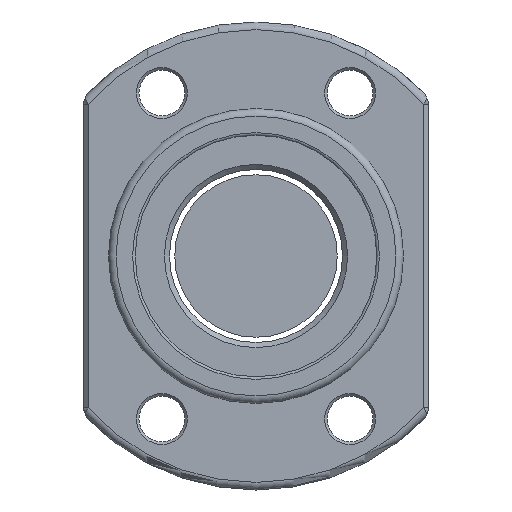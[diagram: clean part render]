
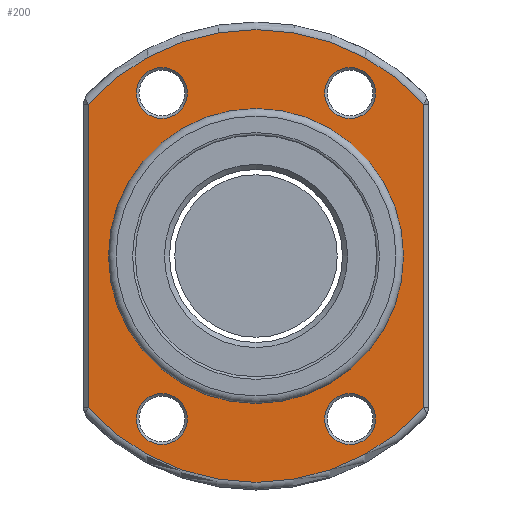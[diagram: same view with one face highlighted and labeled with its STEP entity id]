
A CAD part, front view. The second image highlights one B-rep face of the part: STEP entity #200.
In plain terms, the highlighted planar face has unit normal (0, -1, 0).
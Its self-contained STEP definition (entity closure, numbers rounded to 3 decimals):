
#89=LINE('',#1179,#109);
#90=LINE('',#1183,#110);
#109=VECTOR('',#983,1.);
#110=VECTOR('',#986,1.);
#154=PLANE('',#872);
#200=ADVANCED_FACE('',(#270,#271,#272,#273,#274,#275),#154,.T.);
#270=FACE_BOUND('',#340,.T.);
#271=FACE_BOUND('',#341,.T.);
#272=FACE_BOUND('',#342,.T.);
#273=FACE_BOUND('',#343,.T.);
#274=FACE_BOUND('',#344,.T.);
#275=FACE_BOUND('',#345,.T.);
#340=EDGE_LOOP('',(#434));
#341=EDGE_LOOP('',(#435));
#342=EDGE_LOOP('',(#436));
#343=EDGE_LOOP('',(#437));
#344=EDGE_LOOP('',(#438));
#345=EDGE_LOOP('',(#439,#440,#441,#442));
#434=ORIENTED_EDGE('',*,*,#714,.T.);
#435=ORIENTED_EDGE('',*,*,#715,.T.);
#436=ORIENTED_EDGE('',*,*,#716,.T.);
#437=ORIENTED_EDGE('',*,*,#717,.T.);
#438=ORIENTED_EDGE('',*,*,#718,.T.);
#439=ORIENTED_EDGE('',*,*,#719,.T.);
#440=ORIENTED_EDGE('',*,*,#720,.T.);
#441=ORIENTED_EDGE('',*,*,#721,.T.);
#442=ORIENTED_EDGE('',*,*,#722,.T.);
#636=VERTEX_POINT('',#1167);
#637=VERTEX_POINT('',#1169);
#638=VERTEX_POINT('',#1171);
#639=VERTEX_POINT('',#1173);
#640=VERTEX_POINT('',#1175);
#641=VERTEX_POINT('',#1177);
#642=VERTEX_POINT('',#1178);
#643=VERTEX_POINT('',#1180);
#644=VERTEX_POINT('',#1182);
#714=EDGE_CURVE('',#636,#636,#816,.T.);
#715=EDGE_CURVE('',#637,#637,#817,.T.);
#716=EDGE_CURVE('',#638,#638,#818,.T.);
#717=EDGE_CURVE('',#639,#639,#819,.T.);
#718=EDGE_CURVE('',#640,#640,#820,.T.);
#719=EDGE_CURVE('',#641,#642,#821,.T.);
#720=EDGE_CURVE('',#642,#643,#89,.T.);
#721=EDGE_CURVE('',#643,#644,#822,.T.);
#722=EDGE_CURVE('',#644,#641,#90,.T.);
#816=CIRCLE('',#865,5.);
#817=CIRCLE('',#866,5.);
#818=CIRCLE('',#867,5.);
#819=CIRCLE('',#868,5.);
#820=CIRCLE('',#869,29.);
#821=CIRCLE('',#870,44.5);
#822=CIRCLE('',#871,44.5);
#865=AXIS2_PLACEMENT_3D('',#1166,#971,#972);
#866=AXIS2_PLACEMENT_3D('',#1168,#973,#974);
#867=AXIS2_PLACEMENT_3D('',#1170,#975,#976);
#868=AXIS2_PLACEMENT_3D('',#1172,#977,#978);
#869=AXIS2_PLACEMENT_3D('',#1174,#979,#980);
#870=AXIS2_PLACEMENT_3D('',#1176,#981,#982);
#871=AXIS2_PLACEMENT_3D('',#1181,#984,#985);
#872=AXIS2_PLACEMENT_3D('',#1184,#987,#988);
#971=DIRECTION('',(0.,1.,0.));
#972=DIRECTION('',(0.,0.,-1.));
#973=DIRECTION('',(0.,1.,0.));
#974=DIRECTION('',(0.,0.,-1.));
#975=DIRECTION('',(0.,1.,0.));
#976=DIRECTION('',(0.,0.,-1.));
#977=DIRECTION('',(0.,1.,0.));
#978=DIRECTION('',(0.,0.,-1.));
#979=DIRECTION('',(0.,1.,0.));
#980=DIRECTION('',(0.,0.,-1.));
#981=DIRECTION('',(0.,-1.,0.));
#982=DIRECTION('',(0.,0.,-1.));
#983=DIRECTION('',(0.,0.,-1.));
#984=DIRECTION('',(0.,-1.,0.));
#985=DIRECTION('',(0.,0.,-1.));
#986=DIRECTION('',(0.,0.,1.));
#987=DIRECTION('',(0.,-1.,0.));
#988=DIRECTION('',(0.,0.,-1.));
#1166=CARTESIAN_POINT('',(18.5,0.,32.043));
#1167=CARTESIAN_POINT('',(18.5,0.,27.043));
#1168=CARTESIAN_POINT('',(-18.5,0.,32.043));
#1169=CARTESIAN_POINT('',(-18.5,0.,27.043));
#1170=CARTESIAN_POINT('',(-18.5,0.,-32.043));
#1171=CARTESIAN_POINT('',(-18.5,0.,-37.043));
#1172=CARTESIAN_POINT('',(18.5,0.,-32.043));
#1173=CARTESIAN_POINT('',(18.5,0.,-37.043));
#1174=CARTESIAN_POINT('',(0.,0.,0.));
#1175=CARTESIAN_POINT('',(0.,0.,-29.));
#1176=CARTESIAN_POINT('',(0.,0.,0.));
#1177=CARTESIAN_POINT('',(33.,0.,29.854));
#1178=CARTESIAN_POINT('',(-33.,0.,29.854));
#1179=CARTESIAN_POINT('',(-33.,0.,0.));
#1180=CARTESIAN_POINT('',(-33.,0.,-29.854));
#1181=CARTESIAN_POINT('',(0.,0.,0.));
#1182=CARTESIAN_POINT('',(33.,0.,-29.854));
#1183=CARTESIAN_POINT('',(33.,0.,0.));
#1184=CARTESIAN_POINT('',(0.,0.,0.));
